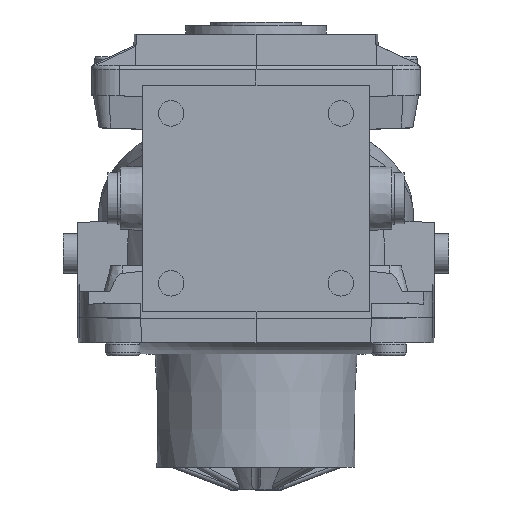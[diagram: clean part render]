
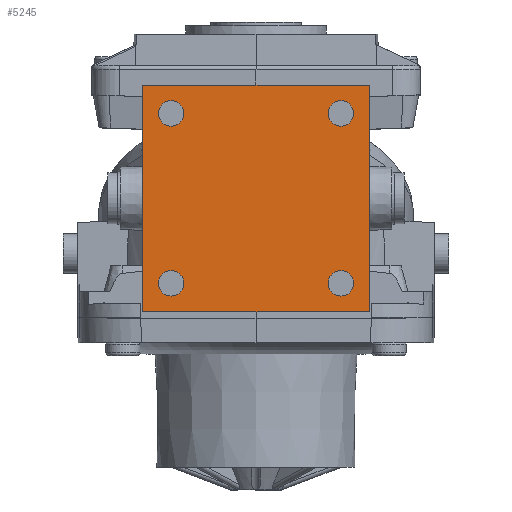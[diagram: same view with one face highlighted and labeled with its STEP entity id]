
A CAD part, left-side view. The second image highlights one B-rep face of the part: STEP entity #5245.
In plain terms, the highlighted planar face has unit normal (-1, 0, 0).
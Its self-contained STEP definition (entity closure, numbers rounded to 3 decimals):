
#5245=ADVANCED_FACE('',(#12717,#12718,#12719,#12720,#12721),#6945,.T.);
#6945=PLANE('',#38884);
#10076=LINE('',#68472,#11784);
#10077=LINE('',#68475,#11785);
#10078=LINE('',#68477,#11786);
#10079=LINE('',#68479,#11787);
#11784=VECTOR('',#45165,1.);
#11785=VECTOR('',#45166,1.);
#11786=VECTOR('',#45167,1.);
#11787=VECTOR('',#45168,1.);
#12717=FACE_BOUND('',#14376,.T.);
#12718=FACE_BOUND('',#14377,.T.);
#12719=FACE_BOUND('',#14378,.T.);
#12720=FACE_BOUND('',#14379,.T.);
#12721=FACE_BOUND('',#14380,.T.);
#14376=EDGE_LOOP('',(#20929,#20930,#20931,#20932));
#14377=EDGE_LOOP('',(#20933));
#14378=EDGE_LOOP('',(#20934));
#14379=EDGE_LOOP('',(#20935));
#14380=EDGE_LOOP('',(#20936));
#20929=ORIENTED_EDGE('',*,*,#32793,.T.);
#20930=ORIENTED_EDGE('',*,*,#32794,.F.);
#20931=ORIENTED_EDGE('',*,*,#32795,.F.);
#20932=ORIENTED_EDGE('',*,*,#32796,.T.);
#20933=ORIENTED_EDGE('',*,*,#32797,.T.);
#20934=ORIENTED_EDGE('',*,*,#32798,.F.);
#20935=ORIENTED_EDGE('',*,*,#32799,.T.);
#20936=ORIENTED_EDGE('',*,*,#32800,.F.);
#28488=VERTEX_POINT('',#68473);
#28489=VERTEX_POINT('',#68474);
#28490=VERTEX_POINT('',#68476);
#28491=VERTEX_POINT('',#68478);
#28492=VERTEX_POINT('',#68481);
#28493=VERTEX_POINT('',#68483);
#28494=VERTEX_POINT('',#68485);
#28495=VERTEX_POINT('',#68487);
#32793=EDGE_CURVE('',#28488,#28489,#10076,.T.);
#32794=EDGE_CURVE('',#28490,#28489,#10077,.T.);
#32795=EDGE_CURVE('',#28491,#28490,#10078,.T.);
#32796=EDGE_CURVE('',#28491,#28488,#10079,.T.);
#32797=EDGE_CURVE('',#28492,#28492,#36360,.T.);
#32798=EDGE_CURVE('',#28493,#28493,#36361,.T.);
#32799=EDGE_CURVE('',#28494,#28494,#36362,.T.);
#32800=EDGE_CURVE('',#28495,#28495,#36363,.T.);
#36360=CIRCLE('',#38880,4.5);
#36361=CIRCLE('',#38881,4.5);
#36362=CIRCLE('',#38882,4.5);
#36363=CIRCLE('',#38883,4.5);
#38880=AXIS2_PLACEMENT_3D('',#68480,#45169,#45170);
#38881=AXIS2_PLACEMENT_3D('',#68482,#45171,#45172);
#38882=AXIS2_PLACEMENT_3D('',#68484,#45173,#45174);
#38883=AXIS2_PLACEMENT_3D('',#68486,#45175,#45176);
#38884=AXIS2_PLACEMENT_3D('',#68488,#45177,#45178);
#45165=DIRECTION('',(0.,1.,0.));
#45166=DIRECTION('',(0.,0.,1.));
#45167=DIRECTION('',(0.,1.,0.));
#45168=DIRECTION('',(0.,0.,1.));
#45169=DIRECTION('',(1.,0.,0.));
#45170=DIRECTION('',(0.,0.,1.));
#45171=DIRECTION('',(-1.,0.,0.));
#45172=DIRECTION('',(0.,0.,1.));
#45173=DIRECTION('',(1.,0.,0.));
#45174=DIRECTION('',(0.,0.,1.));
#45175=DIRECTION('',(-1.,0.,0.));
#45176=DIRECTION('',(0.,0.,1.));
#45177=DIRECTION('',(-1.,0.,0.));
#45178=DIRECTION('',(0.,0.,1.));
#68472=CARTESIAN_POINT('',(-71.,30.,82.));
#68473=CARTESIAN_POINT('',(-71.,-40.,82.));
#68474=CARTESIAN_POINT('',(-71.,40.,82.));
#68475=CARTESIAN_POINT('',(-71.,40.,72.));
#68476=CARTESIAN_POINT('',(-71.,40.,2.));
#68477=CARTESIAN_POINT('',(-71.,30.,2.));
#68478=CARTESIAN_POINT('',(-71.,-40.,2.));
#68479=CARTESIAN_POINT('',(-71.,-40.,72.));
#68480=CARTESIAN_POINT('',(-71.,30.,12.));
#68481=CARTESIAN_POINT('',(-71.,30.,16.5));
#68482=CARTESIAN_POINT('',(-71.,-30.,12.));
#68483=CARTESIAN_POINT('',(-71.,-30.,16.5));
#68484=CARTESIAN_POINT('',(-71.,-30.,72.));
#68485=CARTESIAN_POINT('',(-71.,-30.,76.5));
#68486=CARTESIAN_POINT('',(-71.,30.,72.));
#68487=CARTESIAN_POINT('',(-71.,30.,76.5));
#68488=CARTESIAN_POINT('',(-71.,30.,72.));
